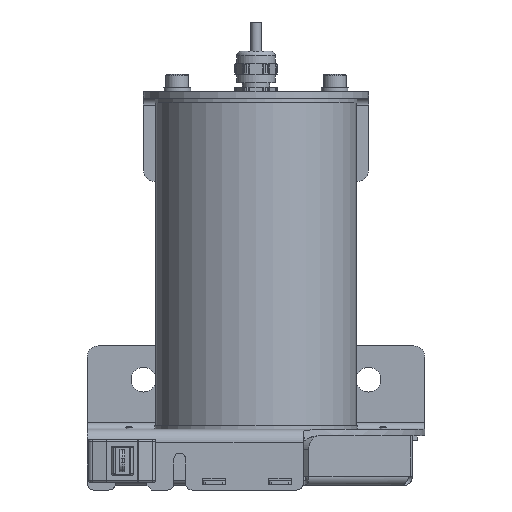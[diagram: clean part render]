
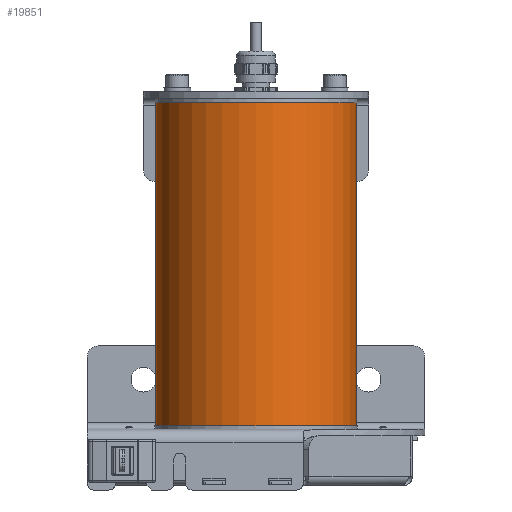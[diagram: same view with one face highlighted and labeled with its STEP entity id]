
A CAD part, left-side view. The second image highlights one B-rep face of the part: STEP entity #19851.
In plain terms, the highlighted cylindrical face has radius 44.45 mm (diameter 88.9 mm), a full revolution.
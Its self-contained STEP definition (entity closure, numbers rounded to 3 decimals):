
#14353=CARTESIAN_POINT('',(44.45,0.,0.0));
#14354=VERTEX_POINT('',#14353);
#14355=CARTESIAN_POINT('',(0.0,0.0,0.0));
#14356=DIRECTION('',(0.0,0.0,-1.0));
#14357=DIRECTION('',(-1.0,0.0,0.0));
#14358=AXIS2_PLACEMENT_3D('',#14355,#14356,#14357);
#14359=CIRCLE('',#14358,44.45);
#14360=EDGE_CURVE('',#14354,#14354,#14359,.T.);
#19592=CARTESIAN_POINT('',(44.45,0.,143.5));
#19593=VERTEX_POINT('',#19592);
#19594=CARTESIAN_POINT('',(0.0,0.0,143.5));
#19595=DIRECTION('',(0.0,0.0,-1.0));
#19596=DIRECTION('',(-1.0,0.0,0.0));
#19597=AXIS2_PLACEMENT_3D('',#19594,#19595,#19596);
#19598=CIRCLE('',#19597,44.45);
#19599=EDGE_CURVE('',#19593,#19593,#19598,.T.);
#19840=CARTESIAN_POINT('',(0.0,0.0,0.0));
#19841=DIRECTION('',(0.0,0.0,1.0));
#19842=DIRECTION('',(-1.0,0.0,0.0));
#19843=AXIS2_PLACEMENT_3D('',#19840,#19841,#19842);
#19844=CYLINDRICAL_SURFACE('',#19843,44.45);
#19845=ORIENTED_EDGE('',*,*,#19599,.T.);
#19846=EDGE_LOOP('',(#19845));
#19847=FACE_OUTER_BOUND('',#19846,.T.);
#19848=ORIENTED_EDGE('',*,*,#14360,.F.);
#19849=EDGE_LOOP('',(#19848));
#19850=FACE_BOUND('',#19849,.T.);
#19851=ADVANCED_FACE('',(#19847,#19850),#19844,.T.);
